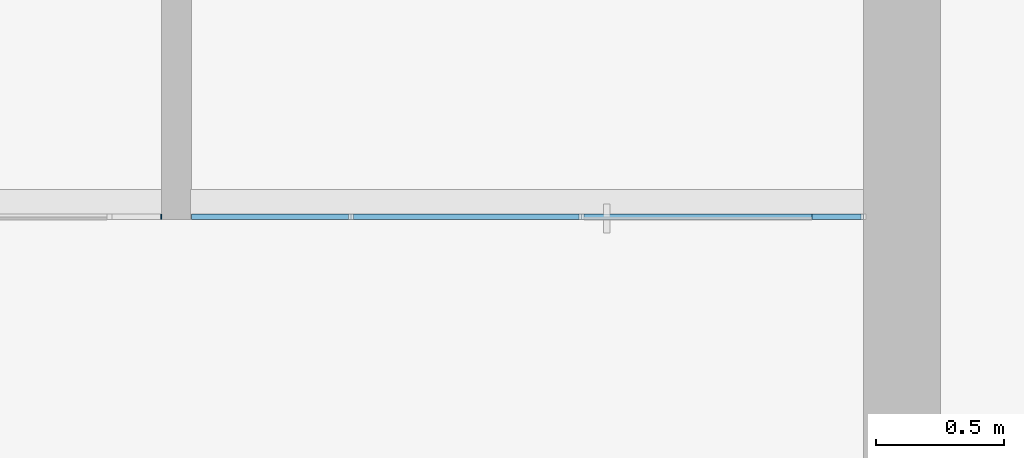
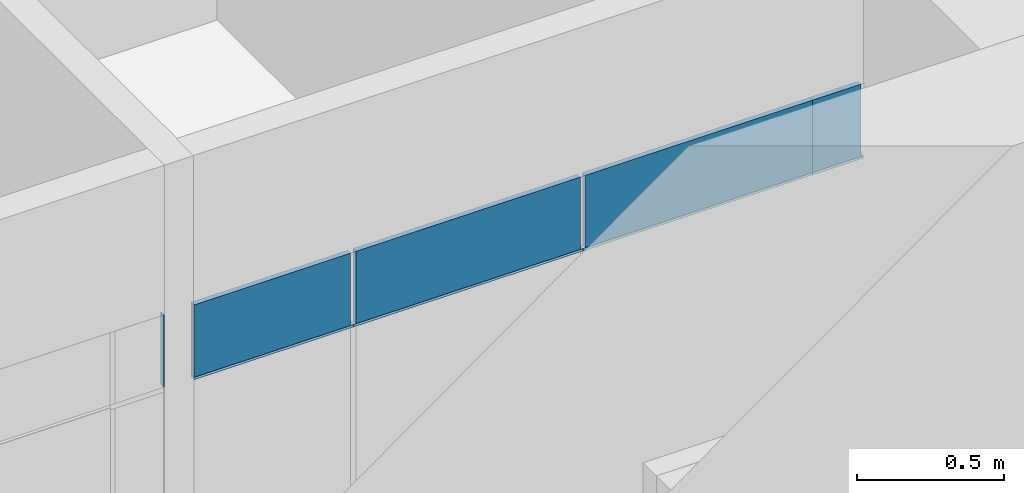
# One storey, part 15 of 49: 9 plates, 2 elements without a shape of their own.
"""IFC2X3 building model written with IfcOpenShell, lengths in millimetres."""

from ifc_helpers import new_model, entity, si_unit, converted_unit, derived_unit, direction, frame, origin, origin_2d_with_axis, place, context, subcontext, project, spatial, rectangle, extrude, source, transform, mapped, material, layer, layer_set, layer_usage, type_object, type_shapes, element, aggregate, save


model = new_model("IFC2X3")

# Units and contexts
model_context = context("Model", 3, precision=0.01, world=origin(), true_north=direction((6.12303176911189e-17, 1.0)))
body_context = subcontext(model_context, "Body", "Model", "MODEL_VIEW")
ifc_project = project(units=[si_unit("LENGTHUNIT", "METRE", prefix="MILLI"), si_unit("AREAUNIT", "SQUARE_METRE"), si_unit("VOLUMEUNIT", "CUBIC_METRE"), converted_unit("PLANEANGLEUNIT", "DEGREE", entity("IfcRatioMeasure", 0.0174532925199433), si_unit("PLANEANGLEUNIT", "RADIAN"), dimensions=[0, 0, 0, 0, 0, 0, 0]), si_unit("MASSUNIT", "GRAM", prefix="KILO"), derived_unit("MASSDENSITYUNIT", [(si_unit("MASSUNIT", "GRAM", prefix="KILO"), 1), (si_unit("LENGTHUNIT", "METRE"), -3)]), si_unit("TIMEUNIT", "SECOND"), si_unit("FREQUENCYUNIT", "HERTZ"), si_unit("THERMODYNAMICTEMPERATUREUNIT", "DEGREE_CELSIUS"), derived_unit("THERMALTRANSMITTANCEUNIT", [(si_unit("MASSUNIT", "GRAM", prefix="KILO"), 1), (si_unit("THERMODYNAMICTEMPERATUREUNIT", "KELVIN"), -1), (si_unit("TIMEUNIT", "SECOND"), -3)]), derived_unit("VOLUMETRICFLOWRATEUNIT", [(si_unit("LENGTHUNIT", "METRE"), 3), (si_unit("TIMEUNIT", "SECOND"), -1)]), si_unit("ELECTRICCURRENTUNIT", "AMPERE"), si_unit("ELECTRICVOLTAGEUNIT", "VOLT"), si_unit("POWERUNIT", "WATT"), si_unit("FORCEUNIT", "NEWTON", prefix="KILO"), si_unit("ILLUMINANCEUNIT", "LUX"), si_unit("LUMINOUSFLUXUNIT", "LUMEN"), si_unit("LUMINOUSINTENSITYUNIT", "CANDELA"), derived_unit("USERDEFINED", [(si_unit("MASSUNIT", "GRAM", prefix="KILO"), -1), (si_unit("LENGTHUNIT", "METRE"), -2), (si_unit("TIMEUNIT", "SECOND"), 3), (si_unit("LUMINOUSFLUXUNIT", "LUMEN"), 1)]), derived_unit("LINEARVELOCITYUNIT", [(si_unit("LENGTHUNIT", "METRE"), 1), (si_unit("TIMEUNIT", "SECOND"), -1)]), si_unit("PRESSUREUNIT", "PASCAL"), derived_unit("USERDEFINED", [(si_unit("LENGTHUNIT", "METRE"), -2), (si_unit("MASSUNIT", "GRAM", prefix="KILO"), 1), (si_unit("TIMEUNIT", "SECOND"), -2)])], contexts=[model_context])

# Site, building, storey
site_placement = place(None, frame((-151.875543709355, 2715.0, 0.0)))
site = spatial("IfcSite", under=ifc_project, at=site_placement, Name="Surface", CompositionType="ELEMENT")
building_placement = place(site_placement, origin())
building = spatial("IfcBuilding", under=site, at=building_placement, CompositionType="ELEMENT")
storey_placement = place(building_placement, origin())
storey = spatial("IfcBuildingStorey", under=building, at=storey_placement, Name="1 korrus", CompositionType="ELEMENT", Elevation=3.0969999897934e-10)

# Curtain wall, plates
curtain_wall_type_1 = type_object("IfcCurtainWallType", Name="Curtain Wall:Klaassein KLS-04", PredefinedType="NOTDEFINED")
curtain_wall_1_placement = place(storey_placement, origin())
curtain_wall_1 = element("IfcCurtainWall", 1, at=curtain_wall_1_placement, inside=storey, type_object=curtain_wall_type_1, Name="Curtain Wall:Klaassein KLS-04", ObjectType="Curtain Wall:Klaassein KLS-04")
ifc_material = material(Name="<Unnamed>")
ifc_layer = layer(ifc_material, 20.0)
ifc_layer_set = layer_set([ifc_layer], Name="Curtain Wall:Klaassein KLS-01")
ifc_layer_usage_1 = layer_usage(ifc_layer_set, "AXIS3", "POSITIVE", 0.0)
plate_type_1 = type_object("IfcPlateType", Name="Glazed", PredefinedType="CURTAIN_PANEL", material=ifc_layer_set)
shared_shape_1 = source(origin(), body_context, "Body", "SweptSolid", [
    extrude(rectangle(XDim=20.0, YDim=624.000000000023, at=origin_2d_with_axis()), frame((0.0, 0.0, 0.0), z_axis=(0.0, 0.0, 1.0), x_axis=(0.0, 1.0, 0.0)), (0.0, 0.0, 1.0), 9.99999999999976),
])
type_shapes(plate_type_1, [shared_shape_1])
plate_1_placement = place(curtain_wall_1_placement, frame((26533.0994792, 7770.0, 2090.0)))
plate_1 = element("IfcPlate", 2, at=plate_1_placement, type_object=plate_type_1, material=ifc_layer_usage_1, Name="System Panel:Glazed", ObjectType="Glazed", context=body_context, shape_type="MappedRepresentation", body=[
    mapped(shared_shape_1, transform((0.0, 0.0, 0.0), scale=1.0)),
])
ifc_layer_usage_2 = layer_usage(ifc_layer_set, "AXIS3", "POSITIVE", 0.0)
plate_type_2 = type_object("IfcPlateType", Name="Glazed", PredefinedType="CURTAIN_PANEL", material=ifc_layer_set)
shared_shape_2 = source(origin(), body_context, "Body", "SweptSolid", [
    extrude(rectangle(XDim=20.0, YDim=900.0000003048, at=origin_2d_with_axis()), frame((0.0, 0.0, 0.0), z_axis=(0.0, 0.0, 1.0), x_axis=(0.0, 1.0, 0.0)), (0.0, 0.0, 1.0), 9.99999999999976),
])
type_shapes(plate_type_2, [shared_shape_2])
plate_2_placement = place(curtain_wall_1_placement, frame((27295.0994792, 7770.0, 2090.0)))
plate_2 = element("IfcPlate", 3, at=plate_2_placement, type_object=plate_type_2, material=ifc_layer_usage_2, Name="System Panel:Glazed", ObjectType="Glazed", context=body_context, shape_type="MappedRepresentation", body=[
    mapped(shared_shape_2, transform((0.0, 0.0, 0.0), scale=1.0)),
])
ifc_layer_usage_3 = layer_usage(ifc_layer_set, "AXIS3", "POSITIVE", 0.0)
plate_3_placement = place(curtain_wall_1_placement, frame((28195.0994792, 7770.0, 2090.0)))
plate_3 = element("IfcPlate", 4, at=plate_3_placement, type_object=plate_type_2, material=ifc_layer_usage_3, Name="System Panel:Glazed", ObjectType="Glazed", context=body_context, shape_type="MappedRepresentation", body=[
    mapped(shared_shape_2, transform((0.0, 0.0, 0.0), scale=1.0)),
])
ifc_layer_usage_4 = layer_usage(ifc_layer_set, "AXIS3", "POSITIVE", 0.0)
plate_type_3 = type_object("IfcPlateType", Name="Glazed", PredefinedType="CURTAIN_PANEL", material=ifc_layer_set)
shared_shape_3 = source(origin(), body_context, "Body", "SweptSolid", [
    extrude(rectangle(XDim=20.0, YDim=199.999999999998, at=origin_2d_with_axis()), frame((0.0, 0.0, 0.0), z_axis=(0.0, 0.0, 1.0), x_axis=(0.0, 1.0, 0.0)), (0.0, 0.0, 1.0), 9.99999999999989),
])
type_shapes(plate_type_3, [shared_shape_3])
plate_4_placement = place(curtain_wall_1_placement, frame((28745.0994792, 7770.0, 2090.0)))
plate_4 = element("IfcPlate", 5, at=plate_4_placement, type_object=plate_type_3, material=ifc_layer_usage_4, Name="System Panel:Glazed", ObjectType="Glazed", context=body_context, shape_type="MappedRepresentation", body=[
    mapped(shared_shape_3, transform((0.0, 0.0, 0.0), scale=1.0)),
])
ifc_layer_usage_5 = layer_usage(ifc_layer_set, "AXIS3", "POSITIVE", 0.0)
plate_type_4 = type_object("IfcPlateType", Name="Glazed", PredefinedType="CURTAIN_PANEL", material=ifc_layer_set)
shared_shape_4 = source(origin(), body_context, "Body", "SweptSolid", [
    extrude(rectangle(XDim=20.0, YDim=614.000000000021, at=origin_2d_with_axis()), frame((0.0, 0.0, 0.0), z_axis=(0.0, 0.0, 1.0), x_axis=(0.0, 1.0, 0.0)), (0.0, 0.0, 1.0), 299.999999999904),
])
type_shapes(plate_type_4, [shared_shape_4])
plate_5_placement = place(curtain_wall_1_placement, frame((26528.0994792, 7770.0, 2100.0)))
plate_5 = element("IfcPlate", 6, at=plate_5_placement, type_object=plate_type_4, material=ifc_layer_usage_5, Name="System Panel:Glazed", ObjectType="Glazed", context=body_context, shape_type="MappedRepresentation", body=[
    mapped(shared_shape_4, transform((0.0, 0.0, 0.0), scale=1.0)),
])
ifc_layer_usage_6 = layer_usage(ifc_layer_set, "AXIS3", "POSITIVE", 0.0)
plate_type_5 = type_object("IfcPlateType", Name="Glazed", PredefinedType="CURTAIN_PANEL", material=ifc_layer_set)
shared_shape_5 = source(origin(), body_context, "Body", "SweptSolid", [
    extrude(rectangle(XDim=20.0, YDim=879.999999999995, at=origin_2d_with_axis()), frame((0.0, 0.0, 0.0), z_axis=(0.0, 0.0, 1.0), x_axis=(0.0, 1.0, 0.0)), (0.0, 0.0, 1.0), 299.999999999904),
])
type_shapes(plate_type_5, [shared_shape_5])
plate_6_placement = place(curtain_wall_1_placement, frame((27295.0994792, 7770.0, 2100.0)))
plate_6 = element("IfcPlate", 7, at=plate_6_placement, type_object=plate_type_5, material=ifc_layer_usage_6, Name="System Panel:Glazed", ObjectType="Glazed", context=body_context, shape_type="MappedRepresentation", body=[
    mapped(shared_shape_5, transform((0.0, 0.0, 0.0), scale=1.0)),
])
ifc_layer_usage_7 = layer_usage(ifc_layer_set, "AXIS3", "POSITIVE", 0.0)
plate_type_6 = type_object("IfcPlateType", Name="Glazed", PredefinedType="CURTAIN_PANEL", material=ifc_layer_set)
shared_shape_6 = source(origin(), body_context, "Body", "SweptSolid", [
    extrude(rectangle(XDim=20.0, YDim=889.999999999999, at=origin_2d_with_axis()), frame((0.0, 0.0, 0.0), z_axis=(0.0, 0.0, 1.0), x_axis=(0.0, 1.0, 0.0)), (0.0, 0.0, 1.0), 299.999999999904),
])
type_shapes(plate_type_6, [shared_shape_6])
plate_7_placement = place(curtain_wall_1_placement, frame((28200.0994792, 7770.0, 2100.0)))
plate_7 = element("IfcPlate", 8, at=plate_7_placement, type_object=plate_type_6, material=ifc_layer_usage_7, Name="System Panel:Glazed", ObjectType="Glazed", context=body_context, shape_type="MappedRepresentation", body=[
    mapped(shared_shape_6, transform((0.0, 0.0, 0.0), scale=1.0)),
])
ifc_layer_usage_8 = layer_usage(ifc_layer_set, "AXIS3", "POSITIVE", 0.0)
plate_type_7 = type_object("IfcPlateType", Name="Glazed", PredefinedType="CURTAIN_PANEL", material=ifc_layer_set)
shared_shape_7 = source(origin(), body_context, "Body", "SweptSolid", [
    extrude(rectangle(XDim=20.0, YDim=190.0, at=origin_2d_with_axis()), frame((0.0, 0.0, 0.0), z_axis=(0.0, 0.0, 1.0), x_axis=(0.0, 1.0, 0.0)), (0.0, 0.0, 1.0), 299.999999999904),
])
type_shapes(plate_type_7, [shared_shape_7])
plate_8_placement = place(curtain_wall_1_placement, frame((28740.0994792, 7770.0, 2100.0)))
plate_8 = element("IfcPlate", 9, at=plate_8_placement, type_object=plate_type_7, material=ifc_layer_usage_8, Name="System Panel:Glazed", ObjectType="Glazed", context=body_context, shape_type="MappedRepresentation", body=[
    mapped(shared_shape_7, transform((0.0, 0.0, 0.0), scale=1.0)),
])
aggregate(curtain_wall_1, [plate_1, plate_2, plate_3, plate_4, plate_5, plate_6, plate_7, plate_8])

# Curtain wall, plate
curtain_wall_type_2 = type_object("IfcCurtainWallType", Name="Curtain Wall:Klaassein KLS-03", PredefinedType="NOTDEFINED")
curtain_wall_2_placement = place(storey_placement, origin())
curtain_wall_2 = element("IfcCurtainWall", 10, at=curtain_wall_2_placement, inside=storey, type_object=curtain_wall_type_2, Name="Curtain Wall:Klaassein KLS-03", ObjectType="Curtain Wall:Klaassein KLS-03")
ifc_layer_usage_9 = layer_usage(ifc_layer_set, "AXIS3", "POSITIVE", 0.0)
plate_type_8 = type_object("IfcPlateType", Name="Glazed", PredefinedType="CURTAIN_PANEL", material=ifc_layer_set)
shared_shape_8 = source(origin(), body_context, "Body", "SweptSolid", [
    extrude(rectangle(XDim=20.0, YDim=3.86940713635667, at=origin_2d_with_axis()), frame((0.0, 0.0, 0.0), z_axis=(0.0, 0.0, 1.0), x_axis=(0.0, 1.0, 0.0)), (0.0, 0.0, 1.0), 299.999999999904),
])
type_shapes(plate_type_8, [shared_shape_8])
plate_9_placement = place(curtain_wall_2_placement, frame((26103.1647756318, 7770.0, 2100.0)))
plate_9 = element("IfcPlate", 11, at=plate_9_placement, type_object=plate_type_8, material=ifc_layer_usage_9, Name="System Panel:Glazed", ObjectType="Glazed", context=body_context, shape_type="MappedRepresentation", body=[
    mapped(shared_shape_8, transform((0.0, 0.0, 0.0), scale=1.0)),
])
aggregate(curtain_wall_2, [plate_9])

save(model, "model.ifc")
